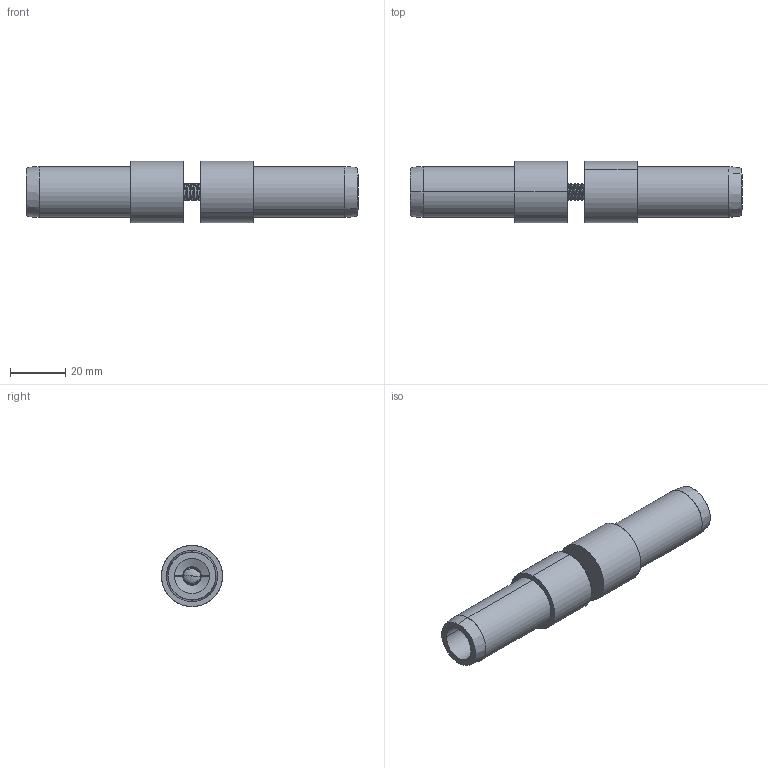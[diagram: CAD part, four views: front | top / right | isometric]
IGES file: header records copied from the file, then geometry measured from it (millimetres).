
Start section: SolidWorks IGES file using analytic representation for surfaces
Global section: file name: \\SERVER3\Design\_New Design Drive Folder List\_Design Vault\AAI\Modular Round Tube Connectors\Solidworks Models\STP Files\12202013\0.750 Inch Modular Connectors\Assemblies\0.75 Inch Coupler Joint Kit.IGS; native system: SolidWorks 2013; preprocessor: SolidWorks 2013; author: tbraun; date: 140109.103550; units: inch
Bounding box: 120.65 x 22.23 x 22.23 mm (x, y, z)
Surface area: 14832.6 mm2 (no closed solid volume)
Topology: 0 solids, 0 shells, 272 faces, 3339 edges, 3336 vertices
Faces by surface type: revolution 229, bspline 43
